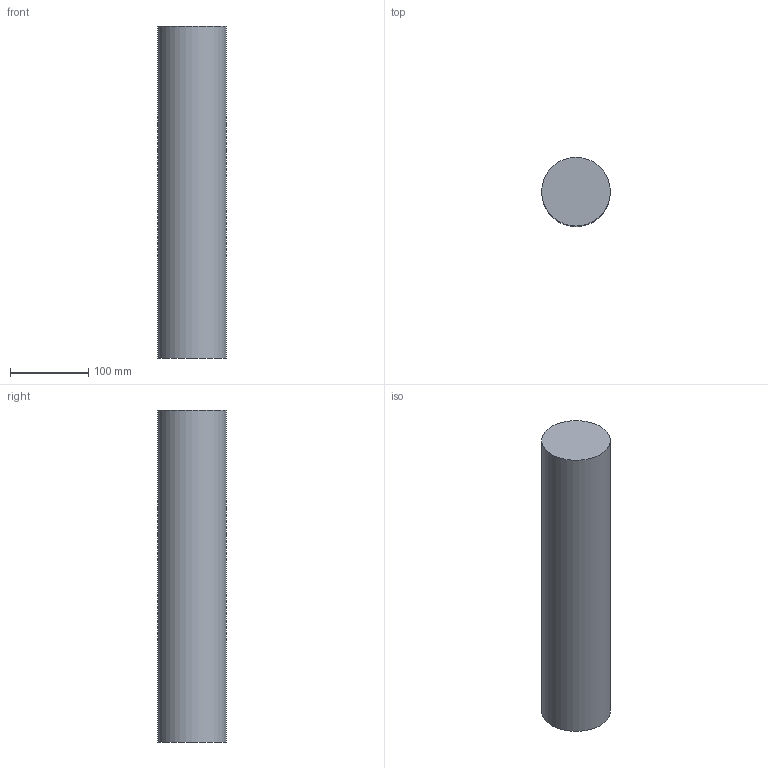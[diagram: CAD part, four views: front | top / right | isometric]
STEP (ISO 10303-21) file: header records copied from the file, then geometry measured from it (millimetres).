
FILE_DESCRIPTION(('Open CASCADE Model'),'2;1');
FILE_NAME('Open CASCADE Shape Model','2026-10-10T15:34:57',('Author'),( 'Open CASCADE'),'Open CASCADE STEP processor 7.9','Open CASCADE 7.9' ,'Unknown');
FILE_SCHEMA(('AUTOMOTIVE_DESIGN { 1 0 10303 214 1 1 1 1 }'));
Length unit declared in the file: millimetre
Products named in the file (1): Open CASCADE STEP translator 7.9 9
Bounding box: 88 x 88 x 425 mm (x, y, z)
Volume: 2584902.4 mm3; surface area: 129659.8 mm2
Topology: 1 solids, 1 shells, 3 faces, 3 edges, 2 vertices
Faces by surface type: plane 2, cylinder 1
Full cylindrical faces by diameter (mm): 88 x1
Entity records: 108 total; most frequent: DIRECTION 19, CARTESIAN_POINT 15, AXIS2_PLACEMENT_3D 6, ORIENTED_EDGE 6, PCURVE 6, DEFINITIONAL_REPRESENTATION 6, LINE 5, VECTOR 5
